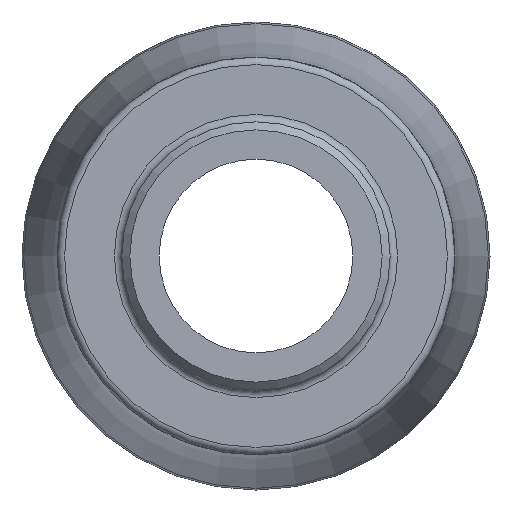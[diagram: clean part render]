
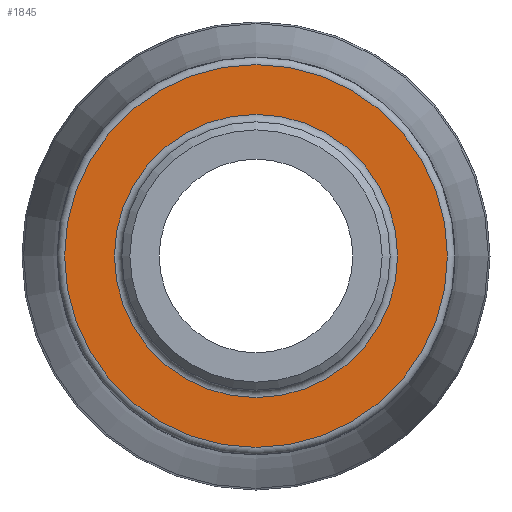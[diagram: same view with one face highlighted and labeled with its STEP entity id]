
A CAD part, left-side view. The second image highlights one B-rep face of the part: STEP entity #1845.
In plain terms, the highlighted planar face has unit normal (-1, 0, 0).
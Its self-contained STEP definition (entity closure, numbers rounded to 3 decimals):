
#194=FACE_BOUND('',#408,.T.);
#208=PLANE('',#2054);
#294=FACE_OUTER_BOUND('',#407,.T.);
#407=EDGE_LOOP('',(#1458,#1459));
#408=EDGE_LOOP('',(#1460,#1461));
#744=CIRCLE('',#2052,17.55);
#745=CIRCLE('',#2053,17.55);
#746=CIRCLE('',#2055,23.725);
#747=CIRCLE('',#2056,23.725);
#881=VERTEX_POINT('',#3251);
#882=VERTEX_POINT('',#3253);
#883=VERTEX_POINT('',#3257);
#884=VERTEX_POINT('',#3258);
#1092=EDGE_CURVE('',#881,#882,#744,.T.);
#1093=EDGE_CURVE('',#882,#881,#745,.T.);
#1094=EDGE_CURVE('',#883,#884,#746,.T.);
#1095=EDGE_CURVE('',#884,#883,#747,.T.);
#1458=ORIENTED_EDGE('',*,*,#1094,.F.);
#1459=ORIENTED_EDGE('',*,*,#1095,.F.);
#1460=ORIENTED_EDGE('',*,*,#1093,.F.);
#1461=ORIENTED_EDGE('',*,*,#1092,.F.);
#1845=ADVANCED_FACE('',(#294,#194),#208,.T.);
#2052=AXIS2_PLACEMENT_3D('',#3254,#2427,#2428);
#2053=AXIS2_PLACEMENT_3D('',#3255,#2429,#2430);
#2054=AXIS2_PLACEMENT_3D('',#3256,#2431,#2432);
#2055=AXIS2_PLACEMENT_3D('',#3259,#2433,#2434);
#2056=AXIS2_PLACEMENT_3D('',#3260,#2435,#2436);
#2427=DIRECTION('center_axis',(-1.,0.,0.));
#2428=DIRECTION('ref_axis',(0.,-1.,0.));
#2429=DIRECTION('center_axis',(-1.,0.,0.));
#2430=DIRECTION('ref_axis',(0.,-1.,0.));
#2431=DIRECTION('center_axis',(-1.,0.,0.));
#2432=DIRECTION('ref_axis',(0.,0.,1.));
#2433=DIRECTION('center_axis',(1.,0.,0.));
#2434=DIRECTION('ref_axis',(0.,-1.,0.));
#2435=DIRECTION('center_axis',(1.,0.,0.));
#2436=DIRECTION('ref_axis',(0.,-1.,0.));
#3251=CARTESIAN_POINT('',(19.,0.,17.55));
#3253=CARTESIAN_POINT('',(19.,17.55,0.));
#3254=CARTESIAN_POINT('Origin',(19.,0.,0.));
#3255=CARTESIAN_POINT('Origin',(19.,0.,0.));
#3256=CARTESIAN_POINT('Origin',(19.,24.65,0.));
#3257=CARTESIAN_POINT('',(19.,23.725,0.));
#3258=CARTESIAN_POINT('',(19.,0.,23.725));
#3259=CARTESIAN_POINT('Origin',(19.,0.,0.));
#3260=CARTESIAN_POINT('Origin',(19.,0.,0.));
